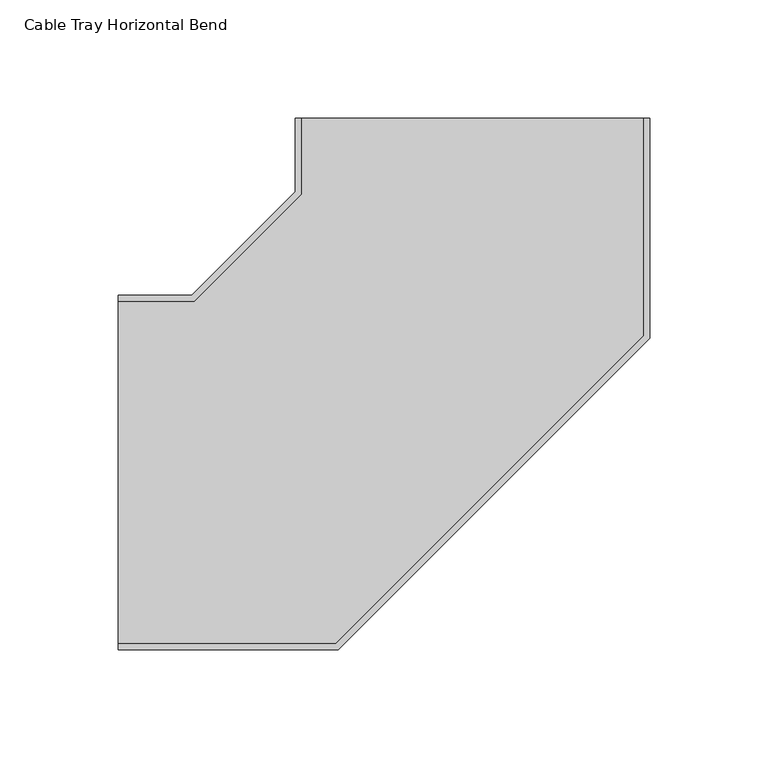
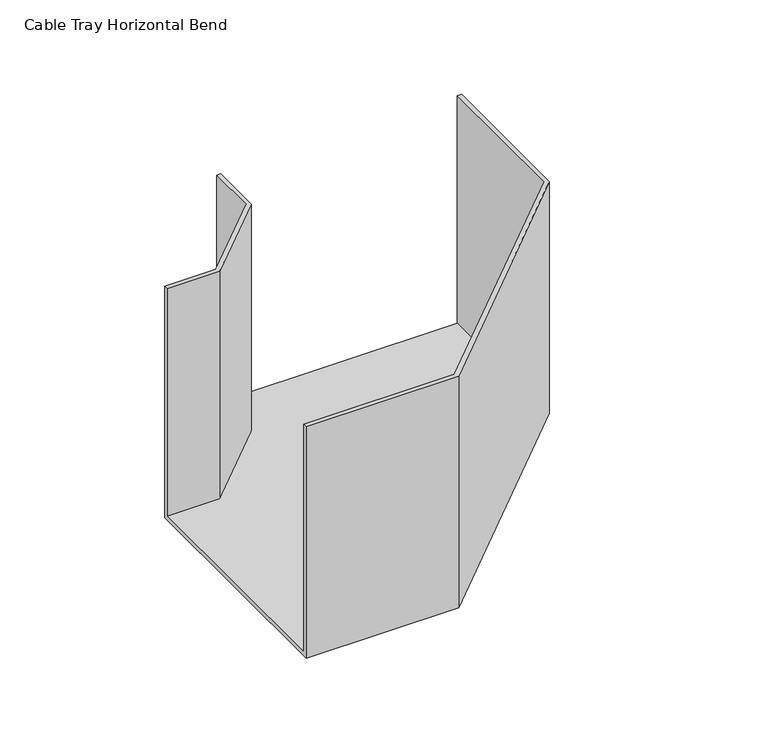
"""IFC4 building model written with IfcOpenShell, lengths in millimetres: cable carrier fitting geometry, Cable Tray Horizontal Bend : ELEC_ELV_TKG_N2402."""

from ifc_helpers import new_model, si_unit, origin, place, context, project, spatial, faceted_brep, source, transform, mapped, element, save


def cable_tray_horizontal_bend_6035e229(model_context):
    return source(origin(), model_context, "Body", "Brep", [
        faceted_brep([(-150.0, -75.0, -75.0), (-150.0, -75.0, 75.0), (-150.0, -72.46, 75.0), (-150.0, -72.46, -72.46), (-150.0, 72.46, -72.46), (-150.0, 72.46, 75.0), (-150.0, 75.0, 75.0), (-150.0, 75.0, -75.0), (75.0, 150.0, -75.0), (-75.0, 150.0, -75.0), (-75.0, 150.0, 75.0), (-72.46, 150.0, 75.0), (-72.46, 150.0, -72.46), (72.46, 150.0, -72.46), (72.46, 150.0, 75.0), (75.0, 150.0, 75.0), (-56.8019485, -75.0, -75.0), (-56.8019485, -75.0, 75.0), (75.0, 56.8019485, 75.0), (72.46, 57.8540509, 75.0), (-57.8540509, -72.46, 75.0), (-57.8540509, -72.46, -72.46), (72.46, 57.8540509, -72.46), (-72.46, 117.8818804, -72.46), (-117.8818804, 72.46, -72.46), (-117.8818804, 72.46, 75.0), (-72.46, 117.8818804, 75.0), (-75.0, 118.9339828, 75.0), (-118.9339828, 75.0, 75.0), (-118.9339828, 75.0, -75.0), (-75.0, 118.9339828, -75.0), (75.0, 56.8019485, -75.0)], [[[0, 1, 2, 3, 4, 5, 6, 7]], [[8, 9, 10, 11, 12, 13, 14, 15]], [[1, 0, 16, 17]], [[2, 1, 17, 18, 15, 14, 19, 20]], [[3, 2, 20, 21]], [[4, 3, 21, 22, 13, 12, 23, 24]], [[5, 4, 24, 25]], [[6, 5, 25, 26, 11, 10, 27, 28]], [[7, 6, 28, 29]], [[0, 7, 29, 30, 9, 8, 31, 16]], [[17, 16, 31, 18]], [[21, 20, 19, 22]], [[25, 24, 23, 26]], [[29, 28, 27, 30]], [[18, 31, 8, 15]], [[22, 19, 14, 13]], [[26, 23, 12, 11]], [[30, 27, 10, 9]]]),
    ])


if __name__ == "__main__":
    model = new_model("IFC4")
    model_context = context("Model", 3, world=origin())
    ifc_project = project(units=[si_unit("LENGTHUNIT", "METRE", prefix="MILLI")], contexts=[model_context])
    site = spatial("IfcSite", under=ifc_project)
    building = spatial("IfcBuilding", under=site)
    placement = place(None, origin())
    cable_tray_horizontal_bend_shape = cable_tray_horizontal_bend_6035e229(model_context)
    element("IfcCableCarrierFitting", 1, ObjectType="Cable Tray Horizontal Bend : ELEC_ELV_TKG_N2402", at=placement, inside=building, context=model_context, shape_type="MappedRepresentation", body=[
        mapped(cable_tray_horizontal_bend_shape, transform((0.0, 0.0, 0.0), x_axis=(1.0, 0.0, 0.0), y_axis=(0.0, 1.0, 0.0), z_axis=(0.0, 0.0, 1.0))),
    ])
    save(model, "model.ifc")
